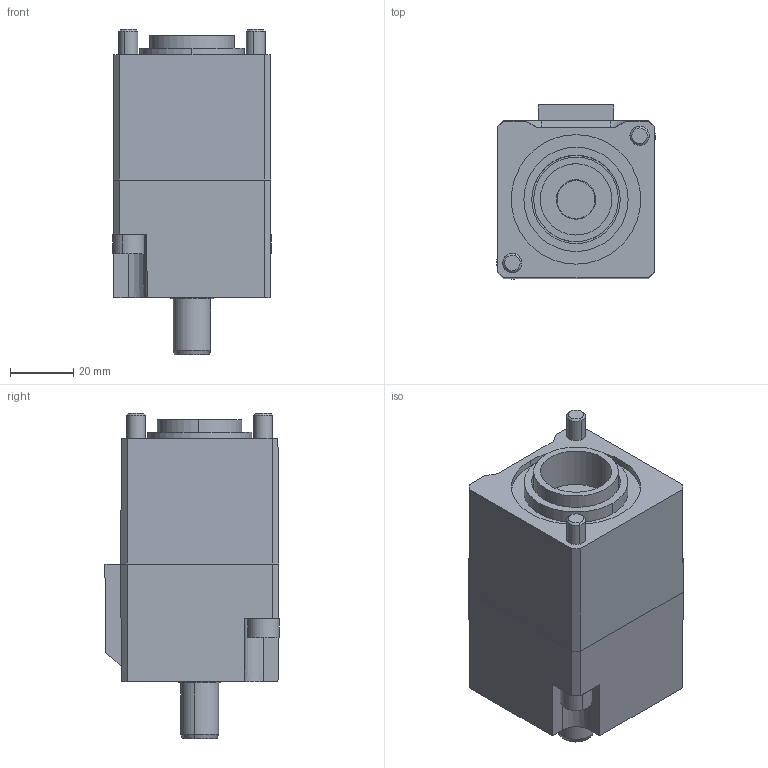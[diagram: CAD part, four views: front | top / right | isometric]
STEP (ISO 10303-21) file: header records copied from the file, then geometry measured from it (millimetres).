
FILE_DESCRIPTION (( 'STEP AP203' ), '1' );
FILE_NAME ('S-0424.STEP', '2018-05-25T11:24:07', ( '' ), ( '' ), 'SwSTEP 2.0', 'SolidWorks 2018', '' );
FILE_SCHEMA (( 'CONFIG_CONTROL_DESIGN' ));
Length unit declared in the file: millimetre
Products named in the file (1): S-0424
Bounding box: 50.29 x 55.15 x 103 mm (x, y, z)
Volume: 161227.1 mm3; surface area: 38315.4 mm2
Topology: 6 solids, 6 shells, 149 faces, 333 edges, 205 vertices
Faces by surface type: plane 79, cylinder 46, cone 24
Entity records: 4160 total; most frequent: DIRECTION 749, CARTESIAN_POINT 688, ORIENTED_EDGE 654, EDGE_CURVE 327, AXIS2_PLACEMENT_3D 274, VERTEX_POINT 205, LINE 201, VECTOR 201
